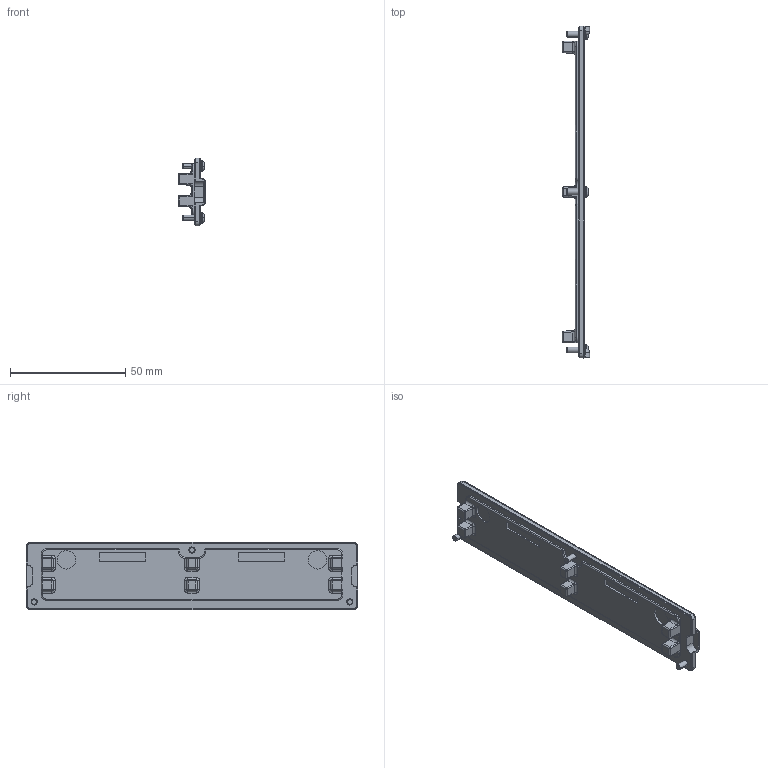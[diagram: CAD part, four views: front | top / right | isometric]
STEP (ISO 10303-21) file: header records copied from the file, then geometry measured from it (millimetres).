
FILE_DESCRIPTION((''),'2;1');
FILE_NAME('1_PX01_STEP_SW0002','2018-10-09T',('mellertr'),(''),'CREO PARAMETRIC BY PTC INC, 2017480','CREO PARAMETRIC BY PTC INC, 2017480','');
FILE_SCHEMA(('CONFIG_CONTROL_DESIGN'));
Length unit declared in the file: millimetre
Products named in the file (1): 1_PX01_STEP_SW0002
Bounding box: 11.76 x 144 x 29.5 mm (x, y, z)
Volume: 16412.5 mm3; surface area: 11053.1 mm2
Topology: 1 solids, 1 shells, 574 faces, 1392 edges, 842 vertices
Faces by surface type: bspline 574
Entity records: 33635 total; most frequent: CARTESIAN_POINT 16888, ORIENTED_EDGE 2776, DIRECTION 1744, EDGE_CURVE 1388, VERTEX_POINT 842, FILL_AREA_STYLE_COLOUR 765, FILL_AREA_STYLE 765, SURFACE_STYLE_FILL_AREA 765
